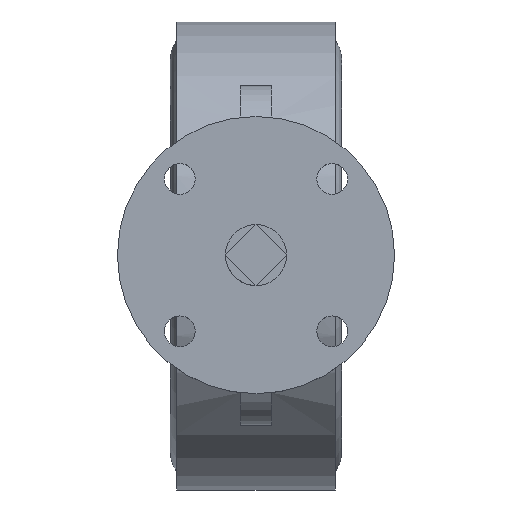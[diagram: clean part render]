
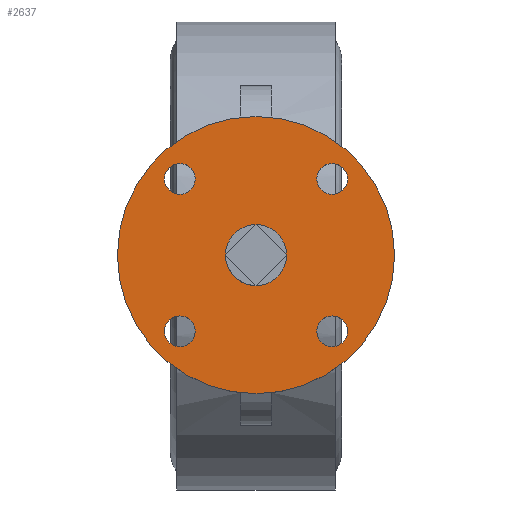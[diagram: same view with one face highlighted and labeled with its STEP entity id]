
A CAD part, top view. The second image highlights one B-rep face of the part: STEP entity #2637.
In plain terms, the highlighted planar face has unit normal (0, 0, 1).
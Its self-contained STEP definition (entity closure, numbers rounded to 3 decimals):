
#2637=ADVANCED_FACE('',(#5223,#5225,#5227,#5229,#5231,#5233),#5235,.T.);
#5223=FACE_BOUND('',#5224,.T.);
#5224=EDGE_LOOP('',(#8186));
#5225=FACE_BOUND('',#5226,.T.);
#5226=EDGE_LOOP('',(#8187));
#5227=FACE_BOUND('',#5228,.T.);
#5228=EDGE_LOOP('',(#8188));
#5229=FACE_BOUND('',#5230,.T.);
#5230=EDGE_LOOP('',(#8189));
#5231=FACE_BOUND('',#5232,.T.);
#5232=EDGE_LOOP('',(#8190));
#5233=FACE_BOUND('',#5234,.T.);
#5234=EDGE_LOOP('',(#8191));
#5235=PLANE('',#5236);
#5236=AXIS2_PLACEMENT_3D('',#5237,#5238,#5239);
#5237=CARTESIAN_POINT('',(0.,0.,170.));
#5238=DIRECTION('',(0.,0.,1.));
#5239=DIRECTION('',(0.,-1.,0.));
#8186=ORIENTED_EDGE('',*,*,#9270,.T.);
#8187=ORIENTED_EDGE('',*,*,#9367,.T.);
#8188=ORIENTED_EDGE('',*,*,#9271,.T.);
#8189=ORIENTED_EDGE('',*,*,#9272,.T.);
#8190=ORIENTED_EDGE('',*,*,#9273,.T.);
#8191=ORIENTED_EDGE('',*,*,#9274,.T.);
#9270=EDGE_CURVE('',#10858,#10858,#10859,.T.);
#9271=EDGE_CURVE('',#10860,#10860,#10861,.F.);
#9272=EDGE_CURVE('',#10862,#10862,#10863,.F.);
#9273=EDGE_CURVE('',#10864,#10864,#10865,.F.);
#9274=EDGE_CURVE('',#10866,#10866,#10867,.F.);
#9367=EDGE_CURVE('',#11007,#11007,#11008,.F.);
#10858=VERTEX_POINT('',#14840);
#10859=CIRCLE('',#14841,45.);
#10860=VERTEX_POINT('',#14845);
#10861=CIRCLE('',#14846,5.);
#10862=VERTEX_POINT('',#14850);
#10863=CIRCLE('',#14851,5.);
#10864=VERTEX_POINT('',#14855);
#10865=CIRCLE('',#14856,5.);
#10866=VERTEX_POINT('',#14860);
#10867=CIRCLE('',#14861,5.);
#11007=VERTEX_POINT('',#15314);
#11008=CIRCLE('',#15315,9.899);
#14840=CARTESIAN_POINT('',(-45.,0.,170.));
#14841=AXIS2_PLACEMENT_3D('',#14842,#14843,#14844);
#14842=CARTESIAN_POINT('',(0.,0.,170.));
#14843=DIRECTION('',(0.,0.,1.));
#14844=DIRECTION('',(-1.,0.,0.));
#14845=CARTESIAN_POINT('',(-29.749,-24.749,170.));
#14846=AXIS2_PLACEMENT_3D('',#14847,#14848,#14849);
#14847=CARTESIAN_POINT('',(-24.749,-24.749,170.));
#14848=DIRECTION('',(0.,0.,1.));
#14849=DIRECTION('',(-1.,0.,0.));
#14850=CARTESIAN_POINT('',(24.749,-29.749,170.));
#14851=AXIS2_PLACEMENT_3D('',#14852,#14853,#14854);
#14852=CARTESIAN_POINT('',(24.749,-24.749,170.));
#14853=DIRECTION('',(0.,0.,1.));
#14854=DIRECTION('',(0.,-1.,0.));
#14855=CARTESIAN_POINT('',(29.749,24.749,170.));
#14856=AXIS2_PLACEMENT_3D('',#14857,#14858,#14859);
#14857=CARTESIAN_POINT('',(24.749,24.749,170.));
#14858=DIRECTION('',(0.,0.,1.));
#14859=DIRECTION('',(1.,0.,0.));
#14860=CARTESIAN_POINT('',(-24.749,29.749,170.));
#14861=AXIS2_PLACEMENT_3D('',#14862,#14863,#14864);
#14862=CARTESIAN_POINT('',(-24.749,24.749,170.));
#14863=DIRECTION('',(0.,0.,1.));
#14864=DIRECTION('',(0.,1.,0.));
#15314=CARTESIAN_POINT('',(0.,-9.899,170.));
#15315=AXIS2_PLACEMENT_3D('',#15316,#15317,#15318);
#15316=CARTESIAN_POINT('',(0.,0.,170.));
#15317=DIRECTION('',(0.,0.,1.));
#15318=DIRECTION('',(0.,-1.,0.));
